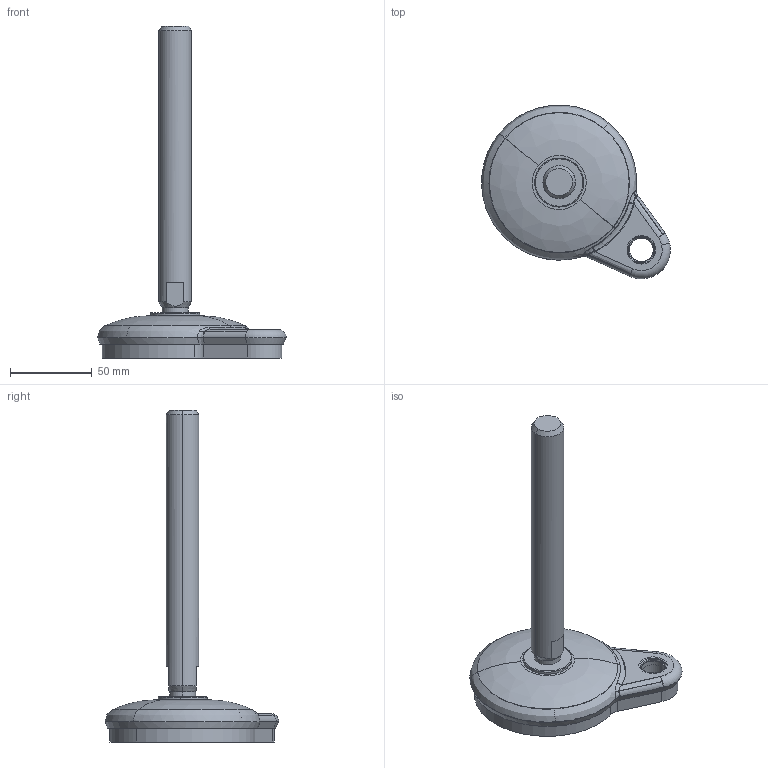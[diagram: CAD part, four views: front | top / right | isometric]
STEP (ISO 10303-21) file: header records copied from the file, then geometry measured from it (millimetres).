
FILE_DESCRIPTION (( 'STEP AP214' ), '1' );
FILE_NAME ('8574892.STEP', '2024-01-24T12:24:46', ( '' ), ( '' ), 'SwSTEP 2.0', 'SolidWorks 2022', '' );
FILE_SCHEMA (( 'AUTOMOTIVE_DESIGN' ));
Length unit declared in the file: millimetre
Products named in the file (1): 8574892
Bounding box: 115.51 x 106.31 x 203.3 mm (x, y, z)
Volume: 222384.9 mm3; surface area: 59802.1 mm2
Topology: 4 solids, 4 shells, 187 faces, 443 edges, 285 vertices
Faces by surface type: cylinder 62, plane 46, torus 33, bspline 32, cone 14
Entity records: 10417 total; most frequent: CARTESIAN_POINT 4006, DIRECTION 929, ORIENTED_EDGE 882, EDGE_CURVE 441, AXIS2_PLACEMENT_3D 411, VERTEX_POINT 285, CIRCLE 255, EDGE_LOOP 218
